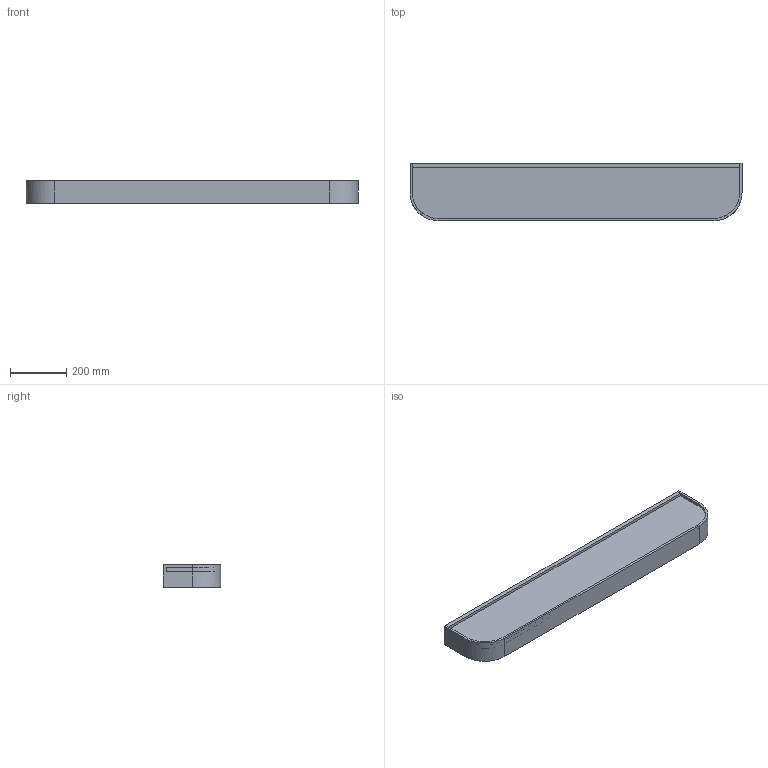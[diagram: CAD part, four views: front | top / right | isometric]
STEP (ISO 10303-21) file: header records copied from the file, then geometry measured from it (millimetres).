
FILE_DESCRIPTION(/* description */ (''),/* implementation_level */ '2;1');
FILE_NAME(/* name */ 'Epoch Shelf w',/* time_stamp */ '2024-05-17T10:40:41+02:00',/* author */ (''),/* organization */ (''),/* preprocessor_version */ 'ST-DEVELOPER v16.5',/* originating_system */ 'Rhino 7.31',/* authorisation */ '');
FILE_SCHEMA (('AUTOMOTIVE_DESIGN'));
Length unit declared in the file: millimetre
Products named in the file (1): Document
Bounding box: 1180 x 204 x 80 mm (x, y, z)
Volume: 5493505.5 mm3; surface area: 1013657.9 mm2
Topology: 14 solids, 14 shells, 167 faces, 372 edges, 248 vertices
Faces by surface type: plane 101, cylinder 66
Entity records: 4826 total; most frequent: CARTESIAN_POINT 1991, ORIENTED_EDGE 744, EDGE_CURVE 372, B_SPLINE_CURVE_WITH_KNOTS 262, VERTEX_POINT 248, EDGE_LOOP 182, DIRECTION 171, AXIS2_PLACEMENT_3D 169
